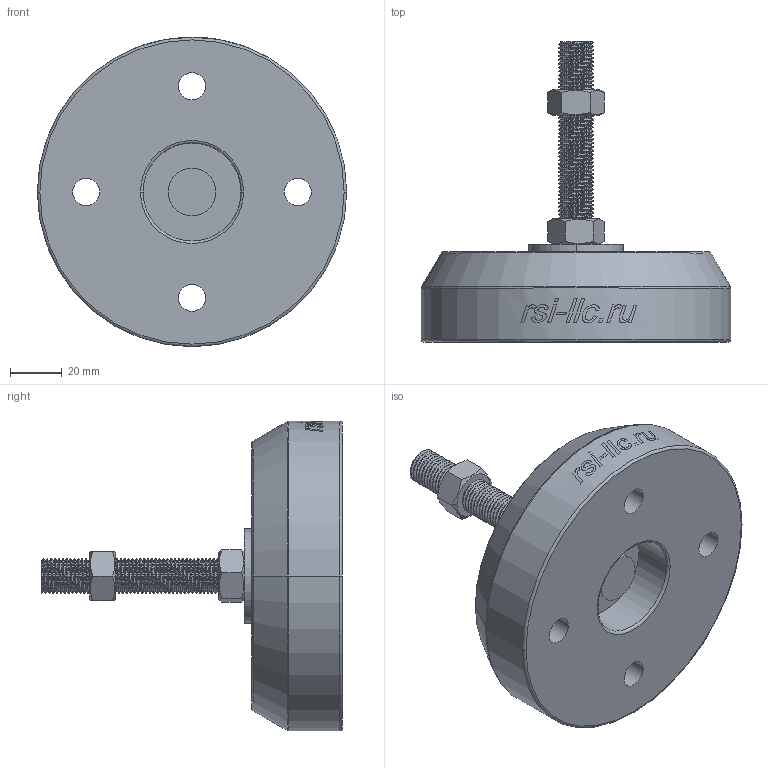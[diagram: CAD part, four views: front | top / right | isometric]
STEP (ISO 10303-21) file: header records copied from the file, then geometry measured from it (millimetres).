
FILE_DESCRIPTION (( 'STEP AP214' ), '1' );
FILE_NAME ('D120ﾊ-M12H100-ﾀ2-ﾍﾅﾐﾆ.STEP', '2022-06-03T12:32:10', ( 'Home' ), ( '' ), 'SwSTEP 2.0', 'SolidWorks 2020', '' );
FILE_SCHEMA (( 'AUTOMOTIVE_DESIGN' ));
Length unit declared in the file: millimetre
Products named in the file (5): Øïèëüêà; Îïîðû èç êàïðîëîíà 120 ìì; Ãàéêà M12-6H ÃÎÑÒ 5927-70; ﾘ琺矜; D120ﾊ-M12H100-ﾀ2-ﾍﾅﾐﾆ
Assembly tree (5 placements, depth 2):
  D120ﾊ-M12H100-ﾀ2-ﾍﾅﾐﾆ
    Îïîðû èç êàïðîëîíà 120 ìì
    ﾘ琺矜
    Øïèëüêà
    Ãàéêà M12-6H ÃÎÑÒ 5927-70  x2
Bounding box: 120 x 116.5 x 120.01 mm (x, y, z)
Volume: 364485.7 mm3; surface area: 51977.3 mm2
Topology: 5 solids, 5 shells, 299 faces, 809 edges, 533 vertices
Faces by surface type: cylinder 170, bspline 77, plane 34, cone 10, torus 8
Entity records: 26257 total; most frequent: CARTESIAN_POINT 19294, ORIENTED_EDGE 1554, EDGE_CURVE 777, DIRECTION 739, VERTEX_POINT 513, EDGE_LOOP 312, ADVANCED_FACE 285, FACE_OUTER_BOUND 285
